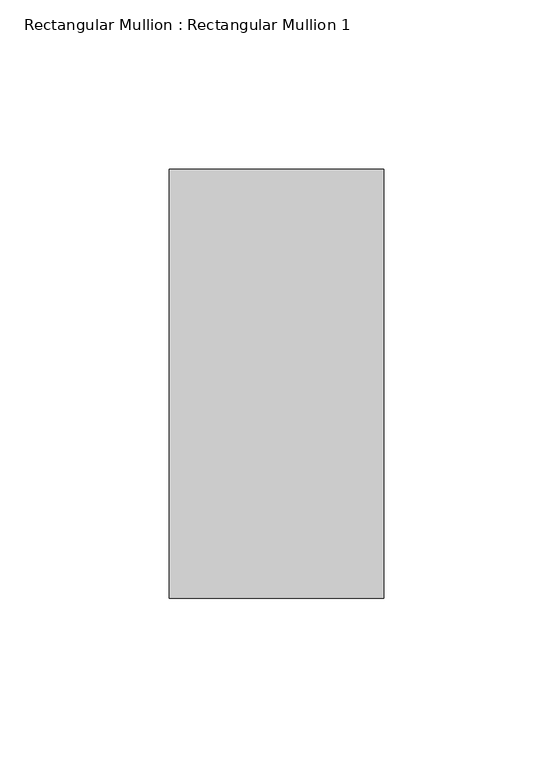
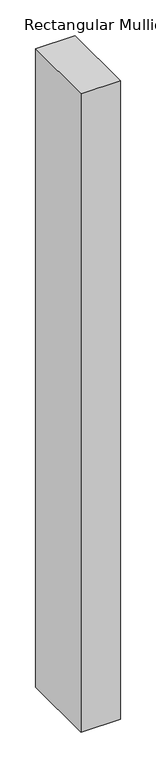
"""IFC4 building model written with IfcOpenShell, lengths in millimetres: member geometry, Rectangular Mullion : Rectangular Mullion 1."""

from ifc_helpers import new_model, si_unit, frame, origin, place, context, project, spatial, polyline, outline, extrude, source, transform, mapped, element, save


def rectangular_mullion_rectangular_mullion_1_6731908d(model_context):
    return source(origin(), model_context, "Body", "SweptSolid", [
        extrude(outline(polyline([(0.0, 63.5), (0.0, -63.5), (-63.5, -63.5), (-63.5, 63.5), (0.0, 63.5)])), frame((0.0, 0.0, -1089.4785716), z_axis=(0.0, 0.0, 1.0), x_axis=(1.0, 0.0, 0.0)), (0.0, 0.0, 1.0), 1089.4785716),
    ])


if __name__ == "__main__":
    model = new_model("IFC4")
    model_context = context("Model", 3, world=origin())
    ifc_project = project(units=[si_unit("LENGTHUNIT", "METRE", prefix="MILLI")], contexts=[model_context])
    site = spatial("IfcSite", under=ifc_project)
    building = spatial("IfcBuilding", under=site)
    placement = place(None, origin())
    rectangular_mullion_rectangular_mullion_1_shape = rectangular_mullion_rectangular_mullion_1_6731908d(model_context)
    element("IfcMember", 1, ObjectType="Rectangular Mullion : Rectangular Mullion 1", at=placement, inside=building, context=model_context, shape_type="MappedRepresentation", body=[
        mapped(rectangular_mullion_rectangular_mullion_1_shape, transform((0.0, 0.0, 0.0), x_axis=(1.0, 0.0, 0.0), y_axis=(0.0, 1.0, 0.0), z_axis=(0.0, 0.0, 1.0))),
    ])
    save(model, "model.ifc")
